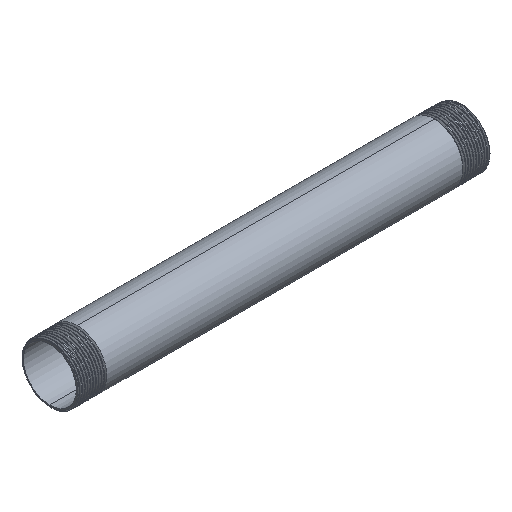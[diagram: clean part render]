
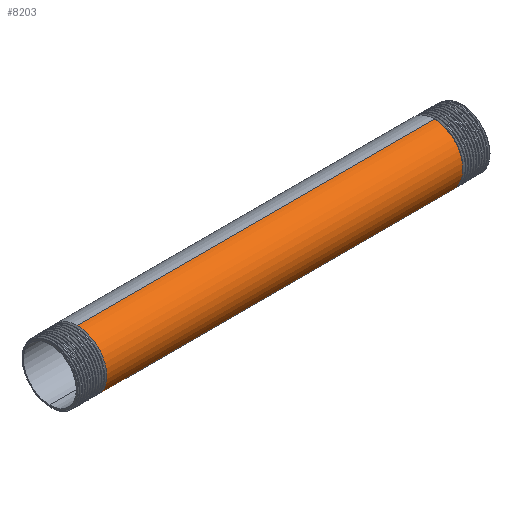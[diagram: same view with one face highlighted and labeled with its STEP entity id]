
A CAD part, isometric view. The second image highlights one B-rep face of the part: STEP entity #8203.
In plain terms, the highlighted cylindrical face has radius 21.2 mm (diameter 42.4 mm), a partial arc.
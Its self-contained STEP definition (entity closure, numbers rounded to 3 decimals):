
#26 = VECTOR ( 'NONE', #3840, 1000. ) ;
#306 = CARTESIAN_POINT ( 'NONE',  ( -129.55, -18.034, -13.102 ) ) ;
#459 = CARTESIAN_POINT ( 'NONE',  ( -129.25, 0., -21.2 ) ) ;
#823 = CARTESIAN_POINT ( 'NONE',  ( 130.25, 0., 21.2 ) ) ;
#1051 = CARTESIAN_POINT ( 'NONE',  ( -130.25, 0., 21.2 ) ) ;
#1103 = CARTESIAN_POINT ( 'NONE',  ( -129.95, -18.034, 13.102 ) ) ;
#1195 = EDGE_CURVE ( 'NONE', #5957, #4128, #7024, .T. ) ;
#1239 = ORIENTED_EDGE ( 'NONE', *, *, #1195, .F. ) ;
#1528 = EDGE_CURVE ( 'NONE', #4128, #7524, #3922, .T. ) ;
#1609 = VECTOR ( 'NONE', #5658, 1000. ) ;
#1765 = CARTESIAN_POINT ( 'NONE',  ( -149.494, 0., -21.2 ) ) ;
#1930 = EDGE_CURVE ( 'NONE', #3865, #7524, #5363, .T. ) ;
#1957 = ORIENTED_EDGE ( 'NONE', *, *, #1930, .T. ) ;
#2035 = CARTESIAN_POINT ( 'NONE',  ( 129.55, -18.034, -13.102 ) ) ;
#2043 = CARTESIAN_POINT ( 'NONE',  ( -130.05, -12.461, 17.151 ) ) ;
#2345 = CARTESIAN_POINT ( 'NONE',  ( -129.25, 0., -21.2 ) ) ;
#2778 = CARTESIAN_POINT ( 'NONE',  ( -129.75, -22.291, 0. ) ) ;
#2913 = CARTESIAN_POINT ( 'NONE',  ( 129.85, -20.162, 6.551 ) ) ;
#3552 = DIRECTION ( 'NONE',  ( -1., 0., 0. ) ) ;
#3648 = CARTESIAN_POINT ( 'NONE',  ( -149.494, 0., 0. ) ) ;
#3729 = ORIENTED_EDGE ( 'NONE', *, *, #1528, .F. ) ;
#3840 = DIRECTION ( 'NONE',  ( -1., 0., 0. ) ) ;
#3865 = VERTEX_POINT ( 'NONE', #823 ) ;
#3922 =( BOUNDED_CURVE ( )  B_SPLINE_CURVE ( 2, ( #459, #6472, #7784, #306, #9464, #2778, #8779, #1103, #2043, #9314, #1051 ),
 .UNSPECIFIED., .F., .F. ) 
 B_SPLINE_CURVE_WITH_KNOTS ( ( 3, 2, 2, 2, 2, 3 ),
 ( 0., 0.008, 0.017, 0.025, 0.033, 0.042 ),
 .UNSPECIFIED. ) 
 CURVE ( )  GEOMETRIC_REPRESENTATION_ITEM ( )  RATIONAL_B_SPLINE_CURVE ( ( 1., 0.951, 1., 0.951, 1., 0.951, 1., 0.951, 1., 0.951, 1. ) ) 
 REPRESENTATION_ITEM ( '' )  );
#4128 = VERTEX_POINT ( 'NONE', #2345 ) ;
#4254 = CARTESIAN_POINT ( 'NONE',  ( 129.35, -6.888, -21.2 ) ) ;
#4492 = CARTESIAN_POINT ( 'NONE',  ( 129.95, -18.034, 13.102 ) ) ;
#5177 = CYLINDRICAL_SURFACE ( 'NONE', #9265, 21.2 ) ;
#5272 = CARTESIAN_POINT ( 'NONE',  ( -149.494, 0., 21.2 ) ) ;
#5363 = LINE ( 'NONE', #5272, #26 ) ;
#5445 = EDGE_LOOP ( 'NONE', ( #1239, #8148, #1957, #3729 ) ) ;
#5577 = CARTESIAN_POINT ( 'NONE',  ( 129.65, -20.162, -6.551 ) ) ;
#5658 = DIRECTION ( 'NONE',  ( -1., 0., 0. ) ) ;
#5822 = CARTESIAN_POINT ( 'NONE',  ( 130.15, -6.888, 21.2 ) ) ;
#5957 = VERTEX_POINT ( 'NONE', #9653 ) ;
#6361 = CARTESIAN_POINT ( 'NONE',  ( 129.25, 0., -21.2 ) ) ;
#6472 = CARTESIAN_POINT ( 'NONE',  ( -129.35, -6.888, -21.2 ) ) ;
#6621 = CARTESIAN_POINT ( 'NONE',  ( -130.25, 0., 21.2 ) ) ;
#6745 = CARTESIAN_POINT ( 'NONE',  ( 130.05, -12.461, 17.151 ) ) ;
#7024 = LINE ( 'NONE', #1765, #1609 ) ;
#7203 =( BOUNDED_CURVE ( )  B_SPLINE_CURVE ( 2, ( #6361, #4254, #7291, #2035, #5577, #8571, #2913, #4492, #6745, #5822, #7479 ),
 .UNSPECIFIED., .F., .T. ) 
 B_SPLINE_CURVE_WITH_KNOTS ( ( 3, 2, 2, 2, 2, 3 ),
 ( 0., 0.008, 0.017, 0.025, 0.033, 0.042 ),
 .UNSPECIFIED. ) 
 CURVE ( )  GEOMETRIC_REPRESENTATION_ITEM ( )  RATIONAL_B_SPLINE_CURVE ( ( 1., 0.951, 1., 0.951, 1., 0.951, 1., 0.951, 1., 0.951, 1. ) ) 
 REPRESENTATION_ITEM ( '' )  );
#7291 = CARTESIAN_POINT ( 'NONE',  ( 129.45, -12.461, -17.151 ) ) ;
#7479 = CARTESIAN_POINT ( 'NONE',  ( 130.25, 0., 21.2 ) ) ;
#7524 = VERTEX_POINT ( 'NONE', #6621 ) ;
#7784 = CARTESIAN_POINT ( 'NONE',  ( -129.45, -12.461, -17.151 ) ) ;
#8116 = DIRECTION ( 'NONE',  ( 0., 0., 1. ) ) ;
#8148 = ORIENTED_EDGE ( 'NONE', *, *, #9190, .T. ) ;
#8203 = ADVANCED_FACE ( 'NONE', ( #8808 ), #5177, .T. ) ;
#8571 = CARTESIAN_POINT ( 'NONE',  ( 129.75, -22.291, 0. ) ) ;
#8779 = CARTESIAN_POINT ( 'NONE',  ( -129.85, -20.162, 6.551 ) ) ;
#8808 = FACE_OUTER_BOUND ( 'NONE', #5445, .T. ) ;
#9190 = EDGE_CURVE ( 'NONE', #5957, #3865, #7203, .T. ) ;
#9265 = AXIS2_PLACEMENT_3D ( 'NONE', #3648, #3552, #8116 ) ;
#9314 = CARTESIAN_POINT ( 'NONE',  ( -130.15, -6.888, 21.2 ) ) ;
#9464 = CARTESIAN_POINT ( 'NONE',  ( -129.65, -20.162, -6.551 ) ) ;
#9653 = CARTESIAN_POINT ( 'NONE',  ( 129.25, 0., -21.2 ) ) ;
